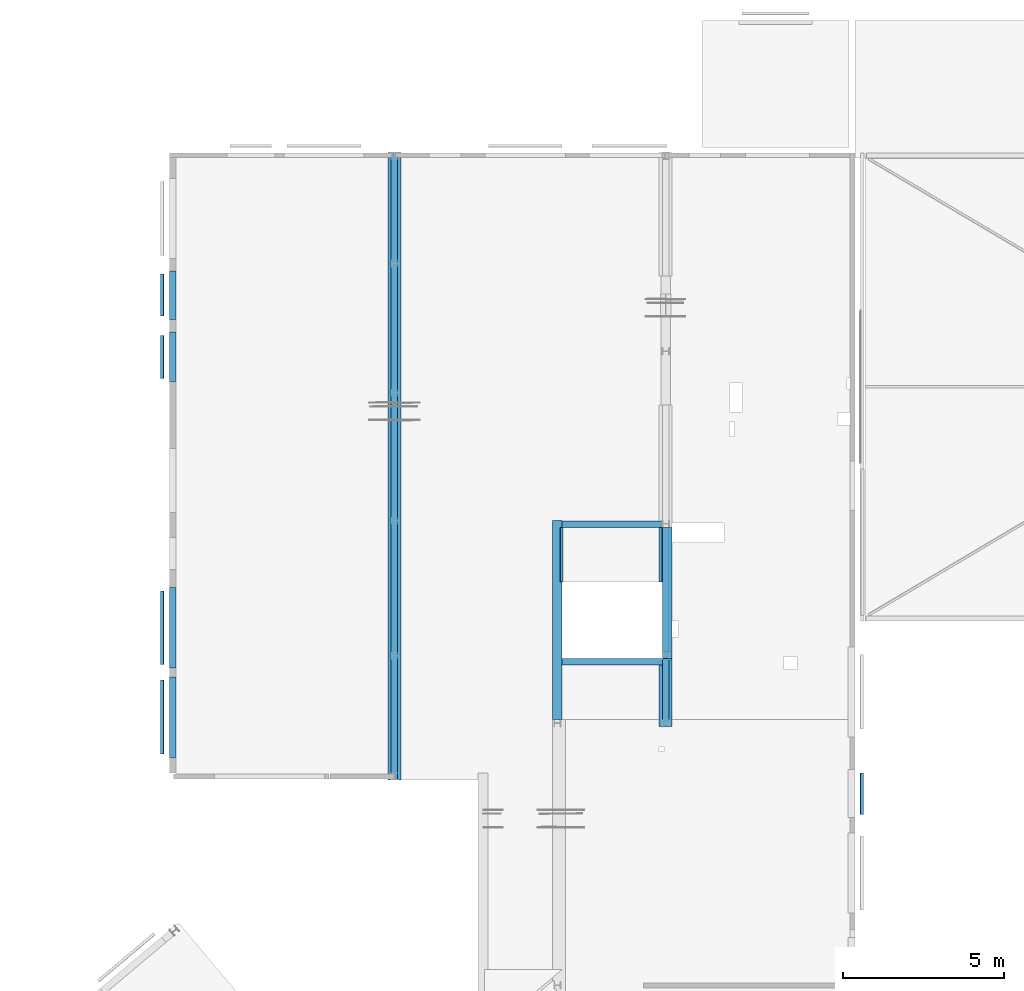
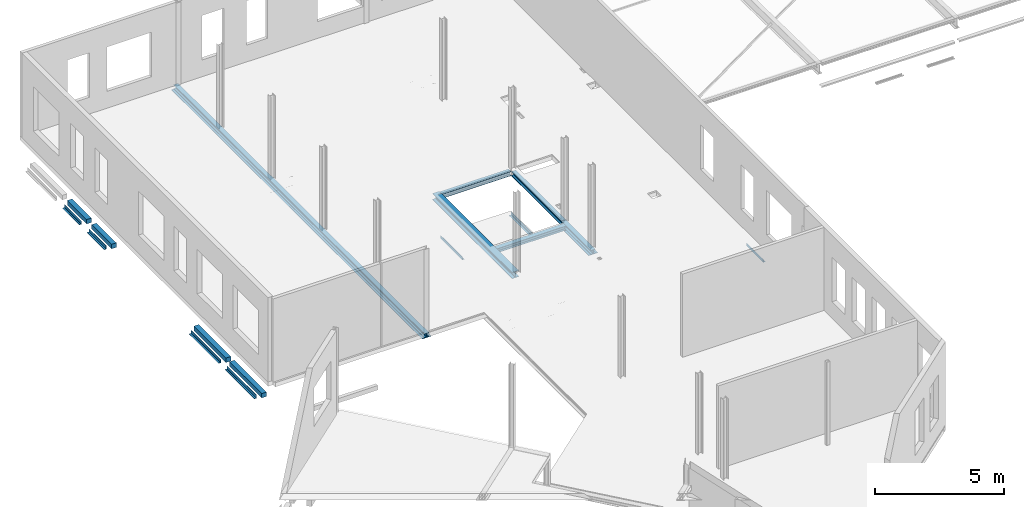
# One storey, part 7 of 16: 18 beams.
"""IFC2X3 building model written with IfcOpenShell, lengths in millimetres."""

from ifc_helpers import new_model, entity, si_unit, converted_unit, derived_unit, direction, frame, frame_2d, origin, origin_2d_with_axis, place, context, subcontext, project, spatial, polyline, circle_curve, parameter, trimmed, segment, composite_curve, rectangle, i_section, outline, extrude, source, transform, mapped, material, material_list, type_object, type_shapes, element, save


model = new_model("IFC2X3")

# Units and contexts
model_context = context("Model", 3, precision=0.01, world=origin(), true_north=direction((6.12303176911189e-17, 1.0)))
body_context = subcontext(model_context, "Body", "Model", "MODEL_VIEW")
ifc_project = project(units=[si_unit("LENGTHUNIT", "METRE", prefix="MILLI"), si_unit("AREAUNIT", "SQUARE_METRE"), si_unit("VOLUMEUNIT", "CUBIC_METRE"), converted_unit("PLANEANGLEUNIT", "DEGREE", entity("IfcRatioMeasure", 0.0174532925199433), si_unit("PLANEANGLEUNIT", "RADIAN"), dimensions=[0, 0, 0, 0, 0, 0, 0]), si_unit("MASSUNIT", "GRAM", prefix="KILO"), derived_unit("MASSDENSITYUNIT", [(si_unit("MASSUNIT", "GRAM", prefix="KILO"), 1), (si_unit("LENGTHUNIT", "METRE"), -3)]), derived_unit("MOMENTOFINERTIAUNIT", [(si_unit("LENGTHUNIT", "METRE"), 4)]), si_unit("TIMEUNIT", "SECOND"), si_unit("FREQUENCYUNIT", "HERTZ"), si_unit("THERMODYNAMICTEMPERATUREUNIT", "DEGREE_CELSIUS"), derived_unit("THERMALTRANSMITTANCEUNIT", [(si_unit("MASSUNIT", "GRAM", prefix="KILO"), 1), (si_unit("THERMODYNAMICTEMPERATUREUNIT", "KELVIN"), -1), (si_unit("TIMEUNIT", "SECOND"), -3)]), derived_unit("VOLUMETRICFLOWRATEUNIT", [(si_unit("LENGTHUNIT", "METRE"), 3), (si_unit("TIMEUNIT", "SECOND"), -1)]), si_unit("ELECTRICCURRENTUNIT", "AMPERE"), si_unit("ELECTRICVOLTAGEUNIT", "VOLT"), si_unit("POWERUNIT", "WATT"), si_unit("FORCEUNIT", "NEWTON", prefix="KILO"), si_unit("ILLUMINANCEUNIT", "LUX"), si_unit("LUMINOUSFLUXUNIT", "LUMEN"), si_unit("LUMINOUSINTENSITYUNIT", "CANDELA"), derived_unit("USERDEFINED", [(si_unit("MASSUNIT", "GRAM", prefix="KILO"), -1), (si_unit("LENGTHUNIT", "METRE"), -2), (si_unit("TIMEUNIT", "SECOND"), 3), (si_unit("LUMINOUSFLUXUNIT", "LUMEN"), 1)]), derived_unit("LINEARVELOCITYUNIT", [(si_unit("LENGTHUNIT", "METRE"), 1), (si_unit("TIMEUNIT", "SECOND"), -1)]), si_unit("PRESSUREUNIT", "PASCAL"), derived_unit("USERDEFINED", [(si_unit("LENGTHUNIT", "METRE"), -2), (si_unit("MASSUNIT", "GRAM", prefix="KILO"), 1), (si_unit("TIMEUNIT", "SECOND"), -2)]), derived_unit("LINEARFORCEUNIT", [(si_unit("MASSUNIT", "GRAM", prefix="KILO"), 1), (si_unit("LENGTHUNIT", "METRE"), 1), (si_unit("TIMEUNIT", "SECOND"), -2), (si_unit("LENGTHUNIT", "METRE"), -1)]), derived_unit("PLANARFORCEUNIT", [(si_unit("MASSUNIT", "GRAM", prefix="KILO"), 1), (si_unit("LENGTHUNIT", "METRE"), 1), (si_unit("TIMEUNIT", "SECOND"), -2), (si_unit("LENGTHUNIT", "METRE"), -2)])], contexts=[model_context])

# Site, building, storey
site_placement = place(None, origin())
site = spatial("IfcSite", under=ifc_project, at=site_placement, Name="Default", CompositionType="ELEMENT")
building_placement = place(site_placement, origin())
building = spatial("IfcBuilding", under=site, at=building_placement, CompositionType="ELEMENT")
storey_placement = place(building_placement, frame((0.0, 0.0, 3500.0)))
storey = spatial("IfcBuildingStorey", under=building, at=storey_placement, Name="01 eerste verdieping", CompositionType="ELEMENT", Elevation=3500.00000000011)

# Beams
ifc_material_1 = material(Name="h2_staal")
beam_type_1 = type_object("IfcBeamType", Name="BERSnl_28_SF_LIB_balk sfb_gen_ISR:balk gen heb200 400x15", PredefinedType="T_BEAM", material=ifc_material_1)
shared_shape_1 = source(origin(), body_context, "Body", "SweptSolid", [
    extrude(rectangle(XDim=15.0, YDim=400.0, at=origin_2d_with_axis()), frame((-1233.78521422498, 0.0, -60.5000000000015), z_axis=(1.0, 0.0, 0.0), x_axis=(0.0, 0.0, -1.0)), (0.0, 0.0, 1.0), 19429.9936123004),
    extrude(outline(composite_curve([segment(polyline([(85.0, -100.0), (100.0, -100.0)]), True, "CONTINUOUS"), segment(polyline([(100.0, -100.0), (100.0, 100.0)]), True, "CONTINUOUS"), segment(polyline([(100.0, 100.0), (85.0, 100.0)]), True, "CONTINUOUS"), segment(polyline([(85.0, 100.0), (85.0, 22.4999999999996)]), True, "CONTINUOUS"), segment(trimmed(circle_curve(frame_2d((67.0, 22.4999999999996), x_axis=(1.0, 0.0)), 18.0), [parameter(270.0)], [parameter(0.0)], True, "PARAMETER"), False, "CONTINUOUS"), segment(polyline([(67.0, 4.49999999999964), (-67.0, 4.49999999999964)]), True, "CONTINUOUS"), segment(trimmed(circle_curve(frame_2d((-67.0, 22.4999999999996), x_axis=(0.0, -1.0)), 18.0), [parameter(270.0)], [parameter(0.0)], True, "PARAMETER"), False, "CONTINUOUS"), segment(polyline([(-85.0, 22.4999999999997), (-85.0, 100.0)]), True, "CONTINUOUS"), segment(polyline([(-85.0, 100.0), (-100.0, 100.0)]), True, "CONTINUOUS"), segment(polyline([(-100.0, 100.0), (-100.0, -100.0)]), True, "CONTINUOUS"), segment(polyline([(-100.0, -100.0), (-85.0, -100.0)]), True, "CONTINUOUS"), segment(polyline([(-85.0, -100.0), (-85.0, -22.5000000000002)]), True, "CONTINUOUS"), segment(trimmed(circle_curve(frame_2d((-67.0, -22.5000000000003), x_axis=(-1.0, 0.0)), 18.0), [parameter(270.0)], [parameter(0.0)], True, "PARAMETER"), False, "CONTINUOUS"), segment(polyline([(-67.0, -4.50000000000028), (67.0, -4.50000000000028)]), True, "CONTINUOUS"), segment(trimmed(circle_curve(frame_2d((67.0, -22.5000000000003), x_axis=(0.0, 1.0)), 18.0), [parameter(270.0)], [parameter(0.0)], True, "PARAMETER"), False, "CONTINUOUS"), segment(polyline([(85.0, -22.5000000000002), (85.0, -100.0)]), True, "CONTINUOUS")], self_intersect=False)), frame((-1233.94365702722, 0.0, 47.0), z_axis=(1.0, 0.0, 0.0), x_axis=(0.0, 0.0, -1.0)), (0.0, 0.0, 1.0), 19430.1584428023),
])
type_shapes(beam_type_1, [shared_shape_1])
beam_1_placement = place(storey_placement, frame((20569.4349765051, 34273.5114140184, 203.0), z_axis=(0.0, 0.0, 1.0), x_axis=(0.0, -1.0, 0.0)))
element("IfcBeam", 1, at=beam_1_placement, inside=storey, type_object=beam_type_1, Name="BERSnl_28_SF_LIB_balk sfb_gen_ISR:balk gen heb200 400x15", ObjectType="BERSnl_28_SF_LIB_balk sfb_gen_ISR:balk gen heb200 400x15", context=body_context, shape_type="MappedRepresentation", body=[
    mapped(shared_shape_1, transform((0.0, 0.0, 0.0), scale=1.0)),
])
ifc_material_2 = material(Name="00_Staal_generiek")
beam_type_2 = type_object("IfcBeamType", Name="BERSnl_28_SF_LIB_balk hoeklijn ongelijk_gen_ISR:balk gen l150x100x10", PredefinedType="BEAM")
beam_2_placement = place(storey_placement, frame((13402.0349765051, 29665.7180928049, -560.0), z_axis=(0.0, 0.0, 1.0), x_axis=(0.0, 1.0, 0.0)))
element("IfcBeam", 2, at=beam_2_placement, inside=storey, type_object=beam_type_2, material=ifc_material_2, Name="BERSnl_28_SF_LIB_balk hoeklijn ongelijk_gen_ISR:balk gen l150x100x10", ObjectType="BERSnl_28_SF_LIB_balk hoeklijn ongelijk_gen_ISR:balk gen l150x100x10", context=body_context, shape_type="SweptSolid", body=[
    extrude(outline(composite_curve([segment(polyline([(-95.5555555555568, -37.7777777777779), (54.4444444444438, -37.7777777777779)]), True, "CONTINUOUS"), segment(polyline([(54.4444444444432, -37.7777777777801), (54.4444444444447, 62.2222222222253)]), True, "CONTINUOUS"), segment(polyline([(54.4444444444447, 62.2222222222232), (50.4444444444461, 62.2222222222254)]), True, "CONTINUOUS"), segment(trimmed(circle_curve(frame_2d((50.4444444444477, 56.2222222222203), x_axis=(0.0, 1.0)), 6.00000000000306), [parameter(0.0)], [parameter(89.9999999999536)], True, "PARAMETER"), True, "CONTINUOUS"), segment(polyline([(44.4444444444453, 56.2222222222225), (44.4444444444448, -15.7777777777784)]), True, "CONTINUOUS"), segment(trimmed(circle_curve(frame_2d((32.4444444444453, -15.7777777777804), x_axis=(1.0, 0.0)), 11.9999999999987), [parameter(269.999999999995)], [parameter(0.0)], True, "PARAMETER"), False, "CONTINUOUS"), segment(polyline([(32.4444444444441, -27.7777777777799), (-89.5555555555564, -27.7777777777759)]), True, "CONTINUOUS"), segment(trimmed(circle_curve(frame_2d((-89.5555555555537, -33.7777777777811), x_axis=(0.0, 1.0)), 6.00000000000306), [parameter(0.0)], [parameter(89.9999999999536)], True, "PARAMETER"), True, "CONTINUOUS"), segment(polyline([(-95.5555555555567, -33.7777777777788), (-95.5555555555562, -37.7777777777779)]), True, "CONTINUOUS")], self_intersect=False)), frame((772.756274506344, 14.3777777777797, -95.5555555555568), z_axis=(1.0, 0.0, 0.0), x_axis=(0.0, 0.0, -1.0)), (0.0, 0.0, 1.0), 1298.06822809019),
])
beam_3_placement = place(storey_placement, frame((13402.0349765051, 20382.2672572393, -560.0), z_axis=(0.0, 0.0, 1.0), x_axis=(0.0, 1.0, 0.0)))
element("IfcBeam", 3, at=beam_3_placement, inside=storey, type_object=beam_type_2, material=ifc_material_2, Name="BERSnl_28_SF_LIB_balk hoeklijn ongelijk_gen_ISR:balk gen l150x100x10", ObjectType="BERSnl_28_SF_LIB_balk hoeklijn ongelijk_gen_ISR:balk gen l150x100x10", context=body_context, shape_type="SweptSolid", body=[
    extrude(outline(composite_curve([segment(polyline([(-95.5555555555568, -37.7777777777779), (54.4444444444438, -37.7777777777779)]), True, "CONTINUOUS"), segment(polyline([(54.4444444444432, -37.7777777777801), (54.4444444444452, 62.2222222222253)]), True, "CONTINUOUS"), segment(polyline([(54.4444444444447, 62.2222222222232), (50.4444444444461, 62.2222222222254)]), True, "CONTINUOUS"), segment(trimmed(circle_curve(frame_2d((50.4444444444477, 56.2222222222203), x_axis=(0.0, 1.0)), 6.00000000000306), [parameter(0.0)], [parameter(89.9999999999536)], True, "PARAMETER"), True, "CONTINUOUS"), segment(polyline([(44.4444444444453, 56.2222222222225), (44.4444444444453, -15.7777777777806)]), True, "CONTINUOUS"), segment(trimmed(circle_curve(frame_2d((32.4444444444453, -15.7777777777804), x_axis=(1.0, 0.0)), 11.9999999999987), [parameter(269.999999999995)], [parameter(0.0)], True, "PARAMETER"), False, "CONTINUOUS"), segment(polyline([(32.4444444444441, -27.7777777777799), (-89.5555555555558, -27.7777777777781)]), True, "CONTINUOUS"), segment(trimmed(circle_curve(frame_2d((-89.5555555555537, -33.7777777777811), x_axis=(0.0, 1.0)), 6.00000000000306), [parameter(0.0)], [parameter(89.9999999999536)], True, "PARAMETER"), True, "CONTINUOUS"), segment(polyline([(-95.5555555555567, -33.7777777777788), (-95.5555555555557, -37.7777777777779)]), True, "CONTINUOUS")], self_intersect=False)), frame((-737.792889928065, 14.3777777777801, -95.5555555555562), z_axis=(1.0, 0.0, 0.0), x_axis=(0.0, 0.0, -1.0)), (0.0, 0.0, 1.0), 2286.00000000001),
])
beam_4_placement = place(storey_placement, frame((13402.0349765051, 17063.5713815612, -560.0), z_axis=(0.0, 0.0, 1.0), x_axis=(0.0, 1.0, 0.0)))
element("IfcBeam", 4, at=beam_4_placement, inside=storey, type_object=beam_type_2, material=ifc_material_2, Name="BERSnl_28_SF_LIB_balk hoeklijn ongelijk_gen_ISR:balk gen l150x100x10", ObjectType="BERSnl_28_SF_LIB_balk hoeklijn ongelijk_gen_ISR:balk gen l150x100x10", context=body_context, shape_type="SweptSolid", body=[
    extrude(outline(composite_curve([segment(polyline([(-95.5555555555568, -37.7777777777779), (54.4444444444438, -37.7777777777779)]), True, "CONTINUOUS"), segment(polyline([(54.4444444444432, -37.7777777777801), (54.4444444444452, 62.2222222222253)]), True, "CONTINUOUS"), segment(polyline([(54.4444444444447, 62.2222222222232), (50.4444444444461, 62.2222222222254)]), True, "CONTINUOUS"), segment(trimmed(circle_curve(frame_2d((50.4444444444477, 56.2222222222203), x_axis=(0.0, 1.0)), 6.00000000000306), [parameter(0.0)], [parameter(89.9999999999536)], True, "PARAMETER"), True, "CONTINUOUS"), segment(polyline([(44.4444444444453, 56.2222222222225), (44.4444444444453, -15.7777777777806)]), True, "CONTINUOUS"), segment(trimmed(circle_curve(frame_2d((32.4444444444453, -15.7777777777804), x_axis=(1.0, 0.0)), 11.9999999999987), [parameter(269.999999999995)], [parameter(0.0)], True, "PARAMETER"), False, "CONTINUOUS"), segment(polyline([(32.4444444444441, -27.7777777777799), (-89.5555555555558, -27.7777777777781)]), True, "CONTINUOUS"), segment(trimmed(circle_curve(frame_2d((-89.5555555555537, -33.7777777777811), x_axis=(0.0, 1.0)), 6.00000000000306), [parameter(0.0)], [parameter(89.9999999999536)], True, "PARAMETER"), True, "CONTINUOUS"), segment(polyline([(-95.5555555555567, -33.7777777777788), (-95.5555555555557, -37.7777777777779)]), True, "CONTINUOUS")], self_intersect=False)), frame((-189.539684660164, 14.3777777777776, -95.5555555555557), z_axis=(1.0, 0.0, 0.0), x_axis=(0.0, 0.0, -1.0)), (0.0, 0.0, 1.0), 2286.44267041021),
])
beam_5_placement = place(storey_placement, frame((25717.8349765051, 21622.9449682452, -1550.0), z_axis=(0.0, 0.0, 1.0), x_axis=(0.0, 1.0, 0.0)))
element("IfcBeam", 5, at=beam_5_placement, inside=storey, type_object=beam_type_2, material=ifc_material_2, Name="BERSnl_28_SF_LIB_balk hoeklijn ongelijk_gen_ISR:balk gen l150x100x10", ObjectType="BERSnl_28_SF_LIB_balk hoeklijn ongelijk_gen_ISR:balk gen l150x100x10", context=body_context, shape_type="SweptSolid", body=[
    extrude(outline(composite_curve([segment(polyline([(50.4444444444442, -62.2222222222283), (54.4444444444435, -62.2222222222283)]), True, "CONTINUOUS"), segment(polyline([(54.4444444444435, -62.2222222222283), (54.4444444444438, 37.777777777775)]), True, "CONTINUOUS"), segment(polyline([(54.4444444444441, 37.777777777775), (-95.5555555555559, 37.777777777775)]), True, "CONTINUOUS"), segment(polyline([(-95.5555555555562, 37.777777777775), (-95.5555555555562, 33.7777777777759)]), True, "CONTINUOUS"), segment(trimmed(circle_curve(frame_2d((-89.5555555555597, 33.7777777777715), x_axis=(-1.0, 0.0)), 5.99999999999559), [parameter(0.0)], [parameter(90.0000000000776)], True, "PARAMETER"), True, "CONTINUOUS"), segment(polyline([(-89.555555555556, 27.7777777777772), (32.4444444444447, 27.7777777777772)]), True, "CONTINUOUS"), segment(trimmed(circle_curve(frame_2d((32.4444444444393, 15.7777777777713), x_axis=(0.0, 1.0)), 12.0000000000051), [parameter(270.000000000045)], [parameter(0.0)], True, "PARAMETER"), False, "CONTINUOUS"), segment(polyline([(44.4444444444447, 15.7777777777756), (44.4444444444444, -56.2222222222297)]), True, "CONTINUOUS"), segment(trimmed(circle_curve(frame_2d((50.4444444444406, -56.222222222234), x_axis=(-1.0, 0.0)), 5.99999999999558), [parameter(0.0)], [parameter(90.0000000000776)], True, "PARAMETER"), True, "CONTINUOUS")], self_intersect=False)), frame((574.351659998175, -14.377777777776, -95.5555555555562), z_axis=(1.0, 0.0, 0.0), x_axis=(0.0, 0.0, -1.0)), (0.0, 0.0, 1.0), 1694.99999999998),
])
beam_6_placement = place(storey_placement, frame((28841.0349765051, 21622.9449682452, -1550.0), z_axis=(0.0, 0.0, 1.0), x_axis=(0.0, 1.0, 0.0)))
element("IfcBeam", 6, at=beam_6_placement, inside=storey, type_object=beam_type_2, material=ifc_material_2, Name="BERSnl_28_SF_LIB_balk hoeklijn ongelijk_gen_ISR:balk gen l150x100x10", ObjectType="BERSnl_28_SF_LIB_balk hoeklijn ongelijk_gen_ISR:balk gen l150x100x10", context=body_context, shape_type="SweptSolid", body=[
    extrude(outline(composite_curve([segment(polyline([(-95.5555555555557, -37.7777777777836), (54.4444444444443, -37.7777777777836)]), True, "CONTINUOUS"), segment(polyline([(54.4444444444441, -37.7777777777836), (54.4444444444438, 62.2222222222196)]), True, "CONTINUOUS"), segment(polyline([(54.4444444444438, 62.2222222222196), (50.4444444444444, 62.2222222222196)]), True, "CONTINUOUS"), segment(trimmed(circle_curve(frame_2d((50.4444444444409, 56.2222222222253), x_axis=(0.0, 1.0)), 5.99999999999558), [parameter(0.0)], [parameter(90.0000000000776)], True, "PARAMETER"), True, "CONTINUOUS"), segment(polyline([(44.4444444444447, 56.222222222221), (44.444444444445, -15.7777777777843)]), True, "CONTINUOUS"), segment(trimmed(circle_curve(frame_2d((32.4444444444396, -15.77777777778), x_axis=(1.0, 0.0)), 12.0000000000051), [parameter(270.000000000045)], [parameter(0.0)], True, "PARAMETER"), False, "CONTINUOUS"), segment(polyline([(32.444444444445, -27.7777777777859), (-89.5555555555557, -27.7777777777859)]), True, "CONTINUOUS"), segment(trimmed(circle_curve(frame_2d((-89.5555555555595, -33.7777777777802), x_axis=(0.0, 1.0)), 5.99999999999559), [parameter(0.0)], [parameter(90.0000000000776)], True, "PARAMETER"), True, "CONTINUOUS"), segment(polyline([(-95.5555555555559, -33.7777777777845), (-95.5555555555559, -37.7777777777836)]), True, "CONTINUOUS")], self_intersect=False)), frame((578.351659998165, 14.3777777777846, -95.5555555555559), z_axis=(1.0, 0.0, 0.0), x_axis=(0.0, 0.0, -1.0)), (0.0, 0.0, 1.0), 1690.99999999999),
])
beam_7_placement = place(storey_placement, frame((35016.8270571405, 14457.9986417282, -560.0), z_axis=(0.0, 0.0, 1.0), x_axis=(0.0, 1.0, 0.0)))
element("IfcBeam", 7, at=beam_7_placement, inside=storey, type_object=beam_type_2, material=ifc_material_2, Name="BERSnl_28_SF_LIB_balk hoeklijn ongelijk_gen_ISR:balk gen l150x100x10", ObjectType="BERSnl_28_SF_LIB_balk hoeklijn ongelijk_gen_ISR:balk gen l150x100x10", context=body_context, shape_type="SweptSolid", body=[
    extrude(outline(composite_curve([segment(polyline([(50.4444444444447, -62.2222222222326), (54.4444444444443, -62.2222222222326)]), True, "CONTINUOUS"), segment(polyline([(54.4444444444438, -62.2222222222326), (54.4444444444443, 37.7777777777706)]), True, "CONTINUOUS"), segment(polyline([(54.4444444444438, 37.7777777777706), (-95.5555555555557, 37.7777777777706)]), True, "CONTINUOUS"), segment(polyline([(-95.5555555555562, 37.7777777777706), (-95.5555555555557, 33.7777777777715)]), True, "CONTINUOUS"), segment(trimmed(circle_curve(frame_2d((-89.5555555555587, 33.7777777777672), x_axis=(-1.0, 0.0)), 5.99999999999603), [parameter(0.0)], [parameter(90.0000000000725)], True, "PARAMETER"), True, "CONTINUOUS"), segment(polyline([(-89.555555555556, 27.7777777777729), (32.444444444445, 27.7777777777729)]), True, "CONTINUOUS"), segment(trimmed(circle_curve(frame_2d((32.4444444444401, 15.777777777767), x_axis=(0.0, 1.0)), 12.000000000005), [parameter(270.000000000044)], [parameter(0.0)], True, "PARAMETER"), False, "CONTINUOUS"), segment(polyline([(44.444444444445, 15.7777777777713), (44.444444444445, -56.222222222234)]), True, "CONTINUOUS"), segment(trimmed(circle_curve(frame_2d((50.4444444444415, -56.2222222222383), x_axis=(-1.0, 0.0)), 5.99999999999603), [parameter(0.0)], [parameter(90.0000000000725)], True, "PARAMETER"), True, "CONTINUOUS")], self_intersect=False)), frame((546.635028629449, -14.3777777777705, -95.5555555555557), z_axis=(1.0, 0.0, 0.0), x_axis=(0.0, 0.0, -1.0)), (0.0, 0.0, 1.0), 1286.0),
])
beam_8_placement = place(storey_placement, frame((13402.0349765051, 27785.7180928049, -560.0), z_axis=(0.0, 0.0, 1.0), x_axis=(0.0, 1.0, 0.0)))
element("IfcBeam", 8, at=beam_8_placement, inside=storey, type_object=beam_type_2, material=ifc_material_2, Name="BERSnl_28_SF_LIB_balk hoeklijn ongelijk_gen_ISR:balk gen l150x100x10", ObjectType="BERSnl_28_SF_LIB_balk hoeklijn ongelijk_gen_ISR:balk gen l150x100x10", context=body_context, shape_type="SweptSolid", body=[
    extrude(outline(composite_curve([segment(polyline([(-95.5555555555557, -37.7777777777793), (54.4444444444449, -37.7777777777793)]), True, "CONTINUOUS"), segment(polyline([(54.4444444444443, -37.7777777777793), (54.4444444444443, 62.222222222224)]), True, "CONTINUOUS"), segment(polyline([(54.4444444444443, 62.222222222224), (50.4444444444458, 62.222222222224)]), True, "CONTINUOUS"), segment(trimmed(circle_curve(frame_2d((50.4444444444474, 56.222222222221), x_axis=(0.0, 1.0)), 6.00000000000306), [parameter(0.0)], [parameter(89.9999999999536)], True, "PARAMETER"), True, "CONTINUOUS"), segment(polyline([(44.444444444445, 56.2222222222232), (44.4444444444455, -15.77777777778)]), True, "CONTINUOUS"), segment(trimmed(circle_curve(frame_2d((32.4444444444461, -15.77777777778), x_axis=(1.0, 0.0)), 11.9999999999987), [parameter(269.999999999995)], [parameter(0.0)], True, "PARAMETER"), False, "CONTINUOUS"), segment(polyline([(32.444444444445, -27.7777777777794), (-89.5555555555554, -27.7777777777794)]), True, "CONTINUOUS"), segment(trimmed(circle_curve(frame_2d((-89.5555555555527, -33.7777777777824), x_axis=(0.0, 1.0)), 6.00000000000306), [parameter(0.0)], [parameter(89.9999999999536)], True, "PARAMETER"), True, "CONTINUOUS"), segment(polyline([(-95.5555555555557, -33.7777777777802), (-95.5555555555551, -37.7777777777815)]), True, "CONTINUOUS")], self_intersect=False)), frame((720.756274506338, 14.3777777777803, -95.5555555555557), z_axis=(1.0, 0.0, 0.0), x_axis=(0.0, 0.0, -1.0)), (0.0, 0.0, 1.0), 1338.00000000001),
])
ifc_material_3 = material(Name="f2_beton prefab")
beam_type_3 = type_object("IfcBeamType", Name="BERSnl_28_SF_LIB_balk vierkant prefab_gen_ISR:balk vierkant gen 214x210", PredefinedType="JOIST")
beam_9_placement = place(storey_placement, frame((13702.4349765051, 28932.1363160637, -490.0), z_axis=(0.0, 0.0, 1.0), x_axis=(0.0, 1.0, 0.0)))
element("IfcBeam", 9, at=beam_9_placement, inside=storey, type_object=beam_type_3, material=ifc_material_3, Name="BERSnl_28_SF_LIB_balk vierkant prefab_gen_ISR:balk vierkant gen 214x210", ObjectType="BERSnl_28_SF_LIB_balk vierkant prefab_gen_ISR:balk vierkant gen 214x210", context=body_context, shape_type="SweptSolid", body=[
    extrude(rectangle(XDim=210.000000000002, YDim=213.999999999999, at=frame_2d((0.0, -2.16715534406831e-12), x_axis=(1.0, 0.0))), frame((1406.33805124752, 0.0, -105.0), z_axis=(1.0, 0.0, 0.0), x_axis=(0.0, 0.0, -1.0)), (0.0, 0.0, 1.0), 1498.0682280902),
])
beam_10_placement = place(storey_placement, frame((13702.4349765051, 19648.6854804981, -490.0), z_axis=(0.0, 0.0, 1.0), x_axis=(0.0, 1.0, 0.0)))
element("IfcBeam", 10, at=beam_10_placement, inside=storey, type_object=beam_type_3, material=ifc_material_3, Name="BERSnl_28_SF_LIB_balk vierkant prefab_gen_ISR:balk vierkant gen 214x210", ObjectType="BERSnl_28_SF_LIB_balk vierkant prefab_gen_ISR:balk vierkant gen 214x210", context=body_context, shape_type="SweptSolid", body=[
    extrude(rectangle(XDim=210.000000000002, YDim=213.999999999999, at=frame_2d((0.0, 2.16715534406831e-12), x_axis=(1.0, 0.0))), frame((-104.211113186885, 0.0, -105.0), z_axis=(1.0, 0.0, 0.0), x_axis=(0.0, 0.0, -1.0)), (0.0, 0.0, 1.0), 2486.00000000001),
])
beam_11_placement = place(storey_placement, frame((13702.4349765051, 16182.2966282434, -490.0), z_axis=(0.0, 0.0, 1.0), x_axis=(0.0, 1.0, 0.0)))
element("IfcBeam", 11, at=beam_11_placement, inside=storey, type_object=beam_type_3, material=ifc_material_3, Name="BERSnl_28_SF_LIB_balk vierkant prefab_gen_ISR:balk vierkant gen 214x210", ObjectType="BERSnl_28_SF_LIB_balk vierkant prefab_gen_ISR:balk vierkant gen 214x210", context=body_context, shape_type="SweptSolid", body=[
    extrude(rectangle(XDim=210.000000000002, YDim=213.999999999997, at=frame_2d((0.0, -1.08713038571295e-12), x_axis=(1.0, 0.0))), frame((591.735068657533, 0.0, -105.0), z_axis=(1.0, 0.0, 0.0), x_axis=(0.0, 0.0, -1.0)), (0.0, 0.0, 1.0), 2486.4426704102),
])
beam_12_placement = place(storey_placement, frame((13702.4349765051, 27052.1363160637, -490.0), z_axis=(0.0, 0.0, 1.0), x_axis=(0.0, 1.0, 0.0)))
element("IfcBeam", 12, at=beam_12_placement, inside=storey, type_object=beam_type_3, material=ifc_material_3, Name="BERSnl_28_SF_LIB_balk vierkant prefab_gen_ISR:balk vierkant gen 214x210", ObjectType="BERSnl_28_SF_LIB_balk vierkant prefab_gen_ISR:balk vierkant gen 214x210", context=body_context, shape_type="SweptSolid", body=[
    extrude(rectangle(XDim=210.000000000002, YDim=213.999999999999, at=frame_2d((0.0, -2.16715534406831e-12), x_axis=(1.0, 0.0))), frame((1354.33805124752, 0.0, -105.0), z_axis=(1.0, 0.0, 0.0), x_axis=(0.0, 0.0, -1.0)), (0.0, 0.0, 1.0), 1538.00000000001),
])
beam_type_4 = type_object("IfcBeamType", Name="BERSnl_28_SF_LIB_balk heb_gen_ISR:balk gen heb300", PredefinedType="BEAM")
beam_13_placement = place(storey_placement, frame((25615.4349765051, 23750.6912162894, 370.0), z_axis=(0.0, 0.0, 1.0), x_axis=(0.0, -1.0, 0.0)))
element("IfcBeam", 13, at=beam_13_placement, inside=storey, type_object=beam_type_4, material=ifc_material_2, Name="BERSnl_28_SF_LIB_balk heb_gen_ISR:balk gen heb300", ObjectType="BERSnl_28_SF_LIB_balk heb_gen_ISR:balk gen heb300", context=body_context, shape_type="SweptSolid", body=[
    extrude(i_section(OverallWidth=300.000000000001, OverallDepth=300.0, WebThickness=11.0000000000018, FlangeThickness=19.0000000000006, FilletRadius=26.9999999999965, at=frame_2d((-5.40012479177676e-13, 4.33431068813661e-12), x_axis=(0.0, 1.0))), frame((-361.605411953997, 0.0, -150.0), z_axis=(1.0, 0.0, 0.0), x_axis=(0.0, 0.0, -1.0)), (0.0, 0.0, 1.0), 6168.72682846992),
])
beam_type_5 = type_object("IfcBeamType", Name="BERSnl_28_SF_LIB_balk heb_gen_ISR:balk gen heb200", PredefinedType="BEAM")
beam_14_placement = place(storey_placement, frame((28069.4349765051, 23992.2966282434, 354.0), z_axis=(0.0, 0.0, 1.0), x_axis=(-1.0, 0.0, 0.0)))
element("IfcBeam", 14, at=beam_14_placement, inside=storey, type_object=beam_type_5, material=ifc_material_2, Name="BERSnl_28_SF_LIB_balk heb_gen_ISR:balk gen heb200", ObjectType="BERSnl_28_SF_LIB_balk heb_gen_ISR:balk gen heb200", context=body_context, shape_type="SweptSolid", body=[
    extrude(i_section(OverallWidth=200.000000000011, OverallDepth=200.0, WebThickness=8.9999999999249, FlangeThickness=15.0000000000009, FilletRadius=18.0000000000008, at=frame_2d((1.08002495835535e-12, 2.1600499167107e-12), x_axis=(0.0, 1.0))), frame((-795.0, 0.0, -100.0), z_axis=(1.0, 0.0, 0.0), x_axis=(0.0, 0.0, -1.0)), (0.0, 0.0, 1.0), 3098.99999999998),
])
beam_15_placement = place(storey_placement, frame((28969.434976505, 20032.2966282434, 350.0), z_axis=(0.0, 0.0, 1.0), x_axis=(0.0, 1.0, 0.0)))
element("IfcBeam", 15, at=beam_15_placement, inside=storey, type_object=beam_type_5, material=ifc_material_2, Name="BERSnl_28_SF_LIB_balk heb_gen_ISR:balk gen heb200", ObjectType="BERSnl_28_SF_LIB_balk heb_gen_ISR:balk gen heb200", context=body_context, shape_type="SweptSolid", body=[
    extrude(i_section(OverallWidth=199.999999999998, OverallDepth=200.0, WebThickness=9.00000000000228, FlangeThickness=15.0000000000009, FilletRadius=18.0000000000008, at=frame_2d((1.08713038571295e-12, 2.16715534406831e-12), x_axis=(0.0, 1.0))), frame((0.0, 0.0, -100.0), z_axis=(1.0, 0.0, 0.0), x_axis=(0.0, 0.0, -1.0)), (0.0, 0.0, 1.0), 3860.00000000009),
])
beam_16_placement = place(storey_placement, frame((28069.4349765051, 19739.2966282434, 354.0), z_axis=(0.0, 0.0, 1.0), x_axis=(-1.0, 0.0, 0.0)))
element("IfcBeam", 16, at=beam_16_placement, inside=storey, type_object=beam_type_5, material=ifc_material_2, Name="BERSnl_28_SF_LIB_balk heb_gen_ISR:balk gen heb200", ObjectType="BERSnl_28_SF_LIB_balk heb_gen_ISR:balk gen heb200", context=body_context, shape_type="SweptSolid", body=[
    extrude(i_section(OverallWidth=200.000000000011, OverallDepth=200.0, WebThickness=8.9999999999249, FlangeThickness=15.0000000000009, FilletRadius=18.0000000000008, at=frame_2d((1.08002495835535e-12, 2.1600499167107e-12), x_axis=(0.0, 1.0))), frame((-795.0, 0.0, -100.0), z_axis=(1.0, 0.0, 0.0), x_axis=(0.0, 0.0, -1.0)), (0.0, 0.0, 1.0), 3098.99999999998),
])
beam_type_6 = type_object("IfcBeamType", Name="BERSnl_28_SF_LIB_balk strip_gen_ISR:balk strip  gen 300x15", PredefinedType="USERDEFINED")
beam_17_placement = place(storey_placement, frame((29169.4349765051, 24302.2966282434, 142.499999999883), z_axis=(0.0, 0.0, 1.0), x_axis=(0.0, -1.0, 0.0)))
element("IfcBeam", 17, at=beam_17_placement, inside=storey, type_object=beam_type_6, material=ifc_material_1, Name="BERSnl_28_SF_LIB_balk strip_gen_ISR:balk strip  gen 300x15", ObjectType="BERSnl_28_SF_LIB_balk strip_gen_ISR:balk strip  gen 300x15", context=body_context, shape_type="SweptSolid", body=[
    extrude(rectangle(XDim=14.9999999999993, YDim=299.999999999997, at=frame_2d((-2.70450328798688e-13, 4.33431068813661e-12), x_axis=(1.0, 0.0))), frame((410.0, -150.0, 0.0), z_axis=(1.0, 0.0, 0.0), x_axis=(0.0, 0.0, -1.0)), (0.0, 0.0, 1.0), 4052.91405468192),
])
ifc_material_4 = material(Name="<Unnamed>")
ifc_material_list = material_list([ifc_material_4, ifc_material_2])
beam_type_7 = type_object("IfcBeamType", Name="BERSnl_28_SF_LIB_balk sfb_gen_ISR:balk gen heb200 400x15", PredefinedType="T_BEAM", material=ifc_material_list)
shared_shape_2 = source(origin(), body_context, "Body", "SweptSolid", [
    extrude(rectangle(XDim=15.0, YDim=400.0, at=origin_2d_with_axis()), frame((-1040.72268436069, 0.0, -60.5000000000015), z_axis=(1.0, 0.0, 0.0), x_axis=(0.0, 0.0, -1.0)), (0.0, 0.0, 1.0), 2114.45318156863),
    extrude(outline(composite_curve([segment(polyline([(85.0, -100.0), (100.0, -100.0)]), True, "CONTINUOUS"), segment(polyline([(100.0, -100.0), (100.0, 100.0)]), True, "CONTINUOUS"), segment(polyline([(100.0, 100.0), (85.0, 100.0)]), True, "CONTINUOUS"), segment(polyline([(85.0, 100.0), (85.0, 22.4999999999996)]), True, "CONTINUOUS"), segment(trimmed(circle_curve(frame_2d((67.0, 22.4999999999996), x_axis=(1.0, 0.0)), 18.0), [parameter(270.0)], [parameter(0.0)], True, "PARAMETER"), False, "CONTINUOUS"), segment(polyline([(67.0, 4.49999999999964), (-67.0, 4.49999999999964)]), True, "CONTINUOUS"), segment(trimmed(circle_curve(frame_2d((-67.0, 22.4999999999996), x_axis=(0.0, -1.0)), 18.0), [parameter(270.0)], [parameter(0.0)], True, "PARAMETER"), False, "CONTINUOUS"), segment(polyline([(-85.0, 22.4999999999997), (-85.0, 100.0)]), True, "CONTINUOUS"), segment(polyline([(-85.0, 100.0), (-100.0, 100.0)]), True, "CONTINUOUS"), segment(polyline([(-100.0, 100.0), (-100.0, -100.0)]), True, "CONTINUOUS"), segment(polyline([(-100.0, -100.0), (-85.0, -100.0)]), True, "CONTINUOUS"), segment(polyline([(-85.0, -100.0), (-85.0, -22.5000000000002)]), True, "CONTINUOUS"), segment(trimmed(circle_curve(frame_2d((-67.0, -22.5000000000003), x_axis=(-1.0, 0.0)), 18.0), [parameter(270.0)], [parameter(0.0)], True, "PARAMETER"), False, "CONTINUOUS"), segment(polyline([(-67.0, -4.50000000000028), (67.0, -4.50000000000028)]), True, "CONTINUOUS"), segment(trimmed(circle_curve(frame_2d((67.0, -22.5000000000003), x_axis=(0.0, 1.0)), 18.0), [parameter(270.0)], [parameter(0.0)], True, "PARAMETER"), False, "CONTINUOUS"), segment(polyline([(85.0, -22.5000000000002), (85.0, -100.0)]), True, "CONTINUOUS")], self_intersect=False)), frame((-1042.08227658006, 0.0, 47.0), z_axis=(1.0, 0.0, 0.0), x_axis=(0.0, 0.0, -1.0)), (0.0, 0.0, 1.0), 2308.72682846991),
])
type_shapes(beam_type_7, [shared_shape_2])
beam_18_placement = place(storey_placement, frame((28969.4349765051, 18765.6520763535, 203.0), z_axis=(0.0, 0.0, 1.0), x_axis=(0.0, 1.0, 0.0)))
element("IfcBeam", 18, at=beam_18_placement, inside=storey, type_object=beam_type_7, Name="BERSnl_28_SF_LIB_balk sfb_gen_ISR:balk gen heb200 400x15", ObjectType="BERSnl_28_SF_LIB_balk sfb_gen_ISR:balk gen heb200 400x15", context=body_context, shape_type="MappedRepresentation", body=[
    mapped(shared_shape_2, transform((0.0, 0.0, 0.0), scale=1.0)),
])

save(model, "model.ifc")
